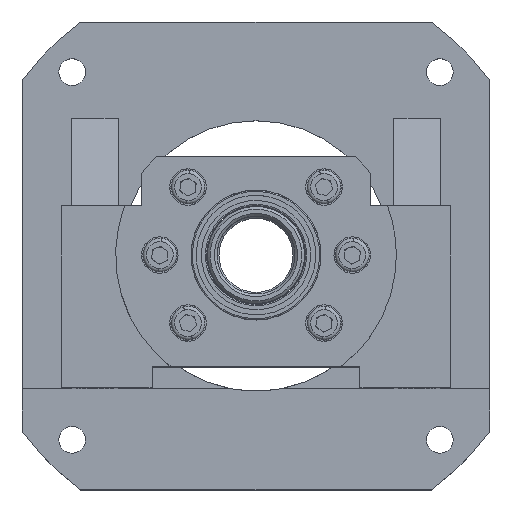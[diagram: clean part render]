
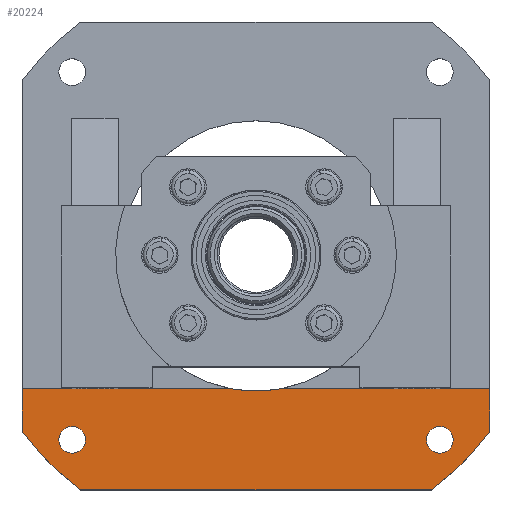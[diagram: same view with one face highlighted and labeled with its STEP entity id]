
A CAD part, top view. The second image highlights one B-rep face of the part: STEP entity #20224.
In plain terms, the highlighted planar face has unit normal (0, 0, 1).
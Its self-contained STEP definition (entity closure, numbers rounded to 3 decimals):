
#163 = CIRCLE ( 'NONE', #3609, 5.15 ) ;
#315 = CARTESIAN_POINT ( 'NONE',  ( 90., -67.5, 21. ) ) ;
#593 = DIRECTION ( 'NONE',  ( 0., 0., 1. ) ) ;
#829 = ORIENTED_EDGE ( 'NONE', *, *, #16617, .F. ) ;
#858 = VERTEX_POINT ( 'NONE', #7427 ) ;
#1109 = DIRECTION ( 'NONE',  ( 0., 0., 1. ) ) ;
#1381 = VERTEX_POINT ( 'NONE', #7379 ) ;
#1602 = CARTESIAN_POINT ( 'NONE',  ( 70.711, -70.711, 21. ) ) ;
#1642 = PLANE ( 'NONE',  #22453 ) ;
#1705 = VERTEX_POINT ( 'NONE', #315 ) ;
#1785 = DIRECTION ( 'NONE',  ( 0., 0., 1. ) ) ;
#2168 = ORIENTED_EDGE ( 'NONE', *, *, #9248, .T. ) ;
#2266 = DIRECTION ( 'NONE',  ( 0., 0., -1. ) ) ;
#2564 = AXIS2_PLACEMENT_3D ( 'NONE', #18580, #1785, #17000 ) ;
#2672 = CARTESIAN_POINT ( 'NONE',  ( 90., 90., 21. ) ) ;
#3101 = VERTEX_POINT ( 'NONE', #22834 ) ;
#3434 = DIRECTION ( 'NONE',  ( 1., 0., 0. ) ) ;
#3609 = AXIS2_PLACEMENT_3D ( 'NONE', #11441, #593, #13260 ) ;
#3818 = VERTEX_POINT ( 'NONE', #13665 ) ;
#4037 = LINE ( 'NONE', #19854, #5176 ) ;
#4148 = AXIS2_PLACEMENT_3D ( 'NONE', #4367, #18766, #6182 ) ;
#4187 = VECTOR ( 'NONE', #16237, 1000. ) ;
#4347 = EDGE_CURVE ( 'NONE', #7308, #1381, #17233, .T. ) ;
#4367 = CARTESIAN_POINT ( 'NONE',  ( -70.711, -70.711, 21. ) ) ;
#4432 = CARTESIAN_POINT ( 'NONE',  ( -91.047, -51.01, 21. ) ) ;
#4464 = VECTOR ( 'NONE', #15311, 1000. ) ;
#5176 = VECTOR ( 'NONE', #9100, 1000. ) ;
#5270 = ORIENTED_EDGE ( 'NONE', *, *, #20515, .T. ) ;
#5284 = DIRECTION ( 'NONE',  ( 0., 0., 1. ) ) ;
#5450 = CARTESIAN_POINT ( 'NONE',  ( -90., 90., 21. ) ) ;
#5882 = CARTESIAN_POINT ( 'NONE',  ( 0., 0., 21. ) ) ;
#6182 = DIRECTION ( 'NONE',  ( 1., 0., 0. ) ) ;
#7094 = VECTOR ( 'NONE', #8993, 1000. ) ;
#7308 = VERTEX_POINT ( 'NONE', #21868 ) ;
#7379 = CARTESIAN_POINT ( 'NONE',  ( 75.861, -70.711, 21. ) ) ;
#7427 = CARTESIAN_POINT ( 'NONE',  ( 90., -51.01, 21. ) ) ;
#7669 = CARTESIAN_POINT ( 'NONE',  ( -10.099, -51.01, 21. ) ) ;
#7696 = DIRECTION ( 'NONE',  ( 1., 0., 0. ) ) ;
#7821 = VERTEX_POINT ( 'NONE', #7669 ) ;
#7850 = EDGE_LOOP ( 'NONE', ( #9962, #20930, #2168, #19425, #22248, #14113, #21820, #5270 ) ) ;
#8020 = EDGE_CURVE ( 'NONE', #18322, #858, #4037, .T. ) ;
#8087 = EDGE_CURVE ( 'NONE', #3101, #3818, #22098, .T. ) ;
#8993 = DIRECTION ( 'NONE',  ( 1., 0., 0. ) ) ;
#9100 = DIRECTION ( 'NONE',  ( 1., 0., 0. ) ) ;
#9159 = AXIS2_PLACEMENT_3D ( 'NONE', #11944, #1109, #13747 ) ;
#9248 = EDGE_CURVE ( 'NONE', #10681, #12798, #20348, .T. ) ;
#9962 = ORIENTED_EDGE ( 'NONE', *, *, #13656, .F. ) ;
#10009 = CIRCLE ( 'NONE', #19564, 52. ) ;
#10681 = VERTEX_POINT ( 'NONE', #14502 ) ;
#11441 = CARTESIAN_POINT ( 'NONE',  ( -70.711, -70.711, 21. ) ) ;
#11522 = CARTESIAN_POINT ( 'NONE',  ( 67.5, -90., 21. ) ) ;
#11586 = EDGE_CURVE ( 'NONE', #12798, #15040, #19733, .T. ) ;
#11876 = CARTESIAN_POINT ( 'NONE',  ( -90., -51.01, 21. ) ) ;
#11944 = CARTESIAN_POINT ( 'NONE',  ( 0., 0., 21. ) ) ;
#12798 = VERTEX_POINT ( 'NONE', #16416 ) ;
#13106 = CARTESIAN_POINT ( 'NONE',  ( 0., 0., 21. ) ) ;
#13260 = DIRECTION ( 'NONE',  ( 1., 0., 0. ) ) ;
#13403 = FACE_BOUND ( 'NONE', #20762, .T. ) ;
#13656 = EDGE_CURVE ( 'NONE', #17342, #7821, #18565, .T. ) ;
#13665 = CARTESIAN_POINT ( 'NONE',  ( -75.861, -70.711, 21. ) ) ;
#13747 = DIRECTION ( 'NONE',  ( 1., 0., 0. ) ) ;
#14113 = ORIENTED_EDGE ( 'NONE', *, *, #15412, .T. ) ;
#14244 = DIRECTION ( 'NONE',  ( 0., 0., 1. ) ) ;
#14502 = CARTESIAN_POINT ( 'NONE',  ( -90., -67.5, 21. ) ) ;
#14892 = DIRECTION ( 'NONE',  ( 1., 0., 0. ) ) ;
#15040 = VERTEX_POINT ( 'NONE', #11522 ) ;
#15192 = LINE ( 'NONE', #2672, #4464 ) ;
#15311 = DIRECTION ( 'NONE',  ( 0., 1., 0. ) ) ;
#15412 = EDGE_CURVE ( 'NONE', #1705, #858, #15192, .T. ) ;
#15774 = ORIENTED_EDGE ( 'NONE', *, *, #8087, .F. ) ;
#16237 = DIRECTION ( 'NONE',  ( 0., -1., 0. ) ) ;
#16332 = EDGE_CURVE ( 'NONE', #3818, #3101, #163, .T. ) ;
#16416 = CARTESIAN_POINT ( 'NONE',  ( -67.5, -90., 21. ) ) ;
#16531 = AXIS2_PLACEMENT_3D ( 'NONE', #5882, #18465, #7696 ) ;
#16617 = EDGE_CURVE ( 'NONE', #1381, #7308, #17126, .T. ) ;
#16910 = AXIS2_PLACEMENT_3D ( 'NONE', #1602, #14244, #3434 ) ;
#17000 = DIRECTION ( 'NONE',  ( 1., 0., 0. ) ) ;
#17126 = CIRCLE ( 'NONE', #16910, 5.15 ) ;
#17233 = CIRCLE ( 'NONE', #2564, 5.15 ) ;
#17342 = VERTEX_POINT ( 'NONE', #11876 ) ;
#17466 = VECTOR ( 'NONE', #20657, 1000. ) ;
#17882 = DIRECTION ( 'NONE',  ( 1., 0., 0. ) ) ;
#17955 = CARTESIAN_POINT ( 'NONE',  ( -90., -90., 21. ) ) ;
#17994 = LINE ( 'NONE', #5450, #4187 ) ;
#18322 = VERTEX_POINT ( 'NONE', #22799 ) ;
#18465 = DIRECTION ( 'NONE',  ( 0., 0., 1. ) ) ;
#18514 = ORIENTED_EDGE ( 'NONE', *, *, #16332, .F. ) ;
#18565 = LINE ( 'NONE', #4432, #17466 ) ;
#18580 = CARTESIAN_POINT ( 'NONE',  ( 70.711, -70.711, 21. ) ) ;
#18720 = FACE_OUTER_BOUND ( 'NONE', #7850, .T. ) ;
#18766 = DIRECTION ( 'NONE',  ( 0., 0., 1. ) ) ;
#19425 = ORIENTED_EDGE ( 'NONE', *, *, #11586, .T. ) ;
#19564 = AXIS2_PLACEMENT_3D ( 'NONE', #13106, #2266, #14892 ) ;
#19605 = CARTESIAN_POINT ( 'NONE',  ( -104.626, -111., 21. ) ) ;
#19733 = LINE ( 'NONE', #17955, #7094 ) ;
#19783 = EDGE_CURVE ( 'NONE', #15040, #1705, #22128, .T. ) ;
#19854 = CARTESIAN_POINT ( 'NONE',  ( -91.047, -51.01, 21. ) ) ;
#20224 = ADVANCED_FACE ( 'NONE', ( #18720, #22402, #13403 ), #1642, .T. ) ;
#20348 = CIRCLE ( 'NONE', #16531, 112.5 ) ;
#20515 = EDGE_CURVE ( 'NONE', #18322, #7821, #10009, .T. ) ;
#20657 = DIRECTION ( 'NONE',  ( 1., 0., 0. ) ) ;
#20762 = EDGE_LOOP ( 'NONE', ( #18514, #15774 ) ) ;
#20930 = ORIENTED_EDGE ( 'NONE', *, *, #22878, .T. ) ;
#21820 = ORIENTED_EDGE ( 'NONE', *, *, #8020, .F. ) ;
#21868 = CARTESIAN_POINT ( 'NONE',  ( 65.561, -70.711, 21. ) ) ;
#22098 = CIRCLE ( 'NONE', #4148, 5.15 ) ;
#22128 = CIRCLE ( 'NONE', #9159, 112.5 ) ;
#22248 = ORIENTED_EDGE ( 'NONE', *, *, #19783, .T. ) ;
#22402 = FACE_BOUND ( 'NONE', #22907, .T. ) ;
#22453 = AXIS2_PLACEMENT_3D ( 'NONE', #19605, #5284, #17882 ) ;
#22799 = CARTESIAN_POINT ( 'NONE',  ( 10.099, -51.01, 21. ) ) ;
#22834 = CARTESIAN_POINT ( 'NONE',  ( -65.561, -70.711, 21. ) ) ;
#22878 = EDGE_CURVE ( 'NONE', #17342, #10681, #17994, .T. ) ;
#22907 = EDGE_LOOP ( 'NONE', ( #23010, #829 ) ) ;
#23010 = ORIENTED_EDGE ( 'NONE', *, *, #4347, .F. ) ;
